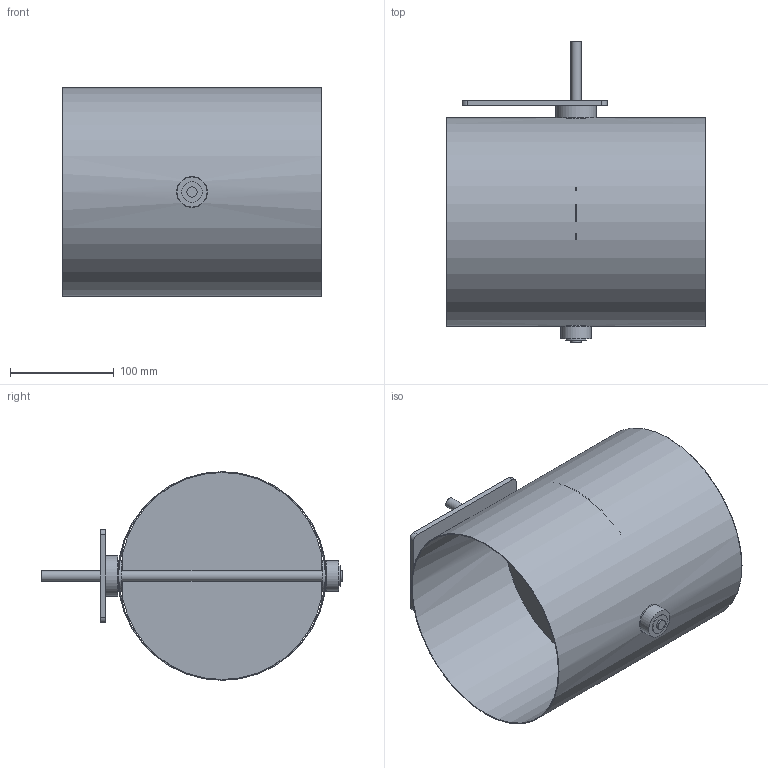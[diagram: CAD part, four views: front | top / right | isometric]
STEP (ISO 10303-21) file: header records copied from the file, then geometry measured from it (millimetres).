
FILE_DESCRIPTION(/* description */ (''),/* implementation_level */ '2;1');
FILE_NAME(/* name */ 'AA101-80B__200_L250_Belimo_Typ_NM.stp',/* time_stamp */ '2017-12-06T14:25:05+01:00',/* author */ (''),/* organization */ (''),/* preprocessor_version */ 'ST-DEVELOPER v11',/* originating_system */ 'SIEMENS UGS NX 6.0',/* authorisation */ '');
FILE_SCHEMA (('CONFIG_CONTROL_DESIGN'));
Length unit declared in the file: millimetre
Products named in the file (1): gars18E2j278
Bounding box: 250 x 290 x 201.6 mm (x, y, z)
Volume: 267164.4 mm3; surface area: 426709 mm2
Topology: 8 solids, 8 shells, 49 faces, 100 edges, 69 vertices
Faces by surface type: cylinder 25, plane 24
Full cylindrical faces by diameter (mm): 4.1 x3, 10 x3, 19 x3, 19.85 x2, 20 x2, 29 x1, 30 x2, 39 x1, 200 x1, 201.6 x1
Entity records: 1334 total; most frequent: CARTESIAN_POINT 254, DIRECTION 216, ORIENTED_EDGE 148, AXIS2_PLACEMENT_3D 96, EDGE_LOOP 92, FACE_BOUND 78, EDGE_CURVE 74, VERTEX_POINT 62
